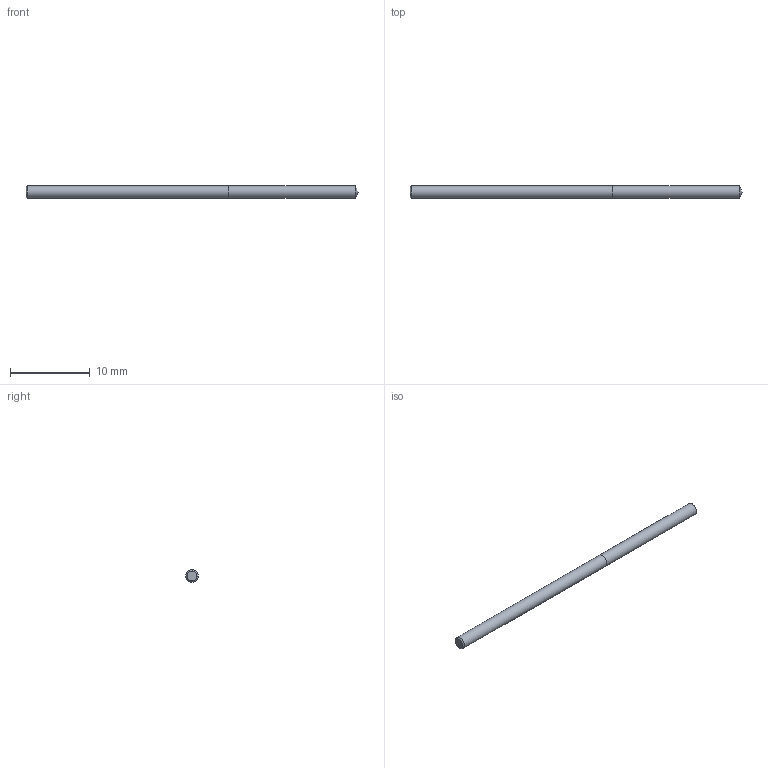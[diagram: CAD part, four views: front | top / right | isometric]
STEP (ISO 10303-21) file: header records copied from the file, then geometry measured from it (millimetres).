
FILE_DESCRIPTION (( 'STEP AP214' ), '1' );
FILE_NAME ('03-2403.STEP', '2022-06-03T07:18:19', ( 'USER' ), ( '' ), 'SwSTEP 2.0', 'SolidWorks 2018', '' );
FILE_SCHEMA (( 'AUTOMOTIVE_DESIGN' ));
Length unit declared in the file: inch
Products named in the file (1): 03-2403
Bounding box: 41.6 x 1.59 x 1.59 mm (x, y, z)
Volume: 81.9 mm3; surface area: 213.4 mm2
Topology: 2 solids, 2 shells, 7 faces, 11 edges, 7 vertices
Faces by surface type: plane 3, cylinder 2, cone 2
Full cylindrical faces by diameter (mm): 1.588 x2
Entity records: 214 total; most frequent: DIRECTION 26, CARTESIAN_POINT 18, AXIS2_PLACEMENT_3D 13, EDGE_LOOP 10, ORIENTED_EDGE 10, FACE_OUTER_BOUND 9, UNCERTAINTY_MEASURE_WITH_UNIT 7, LENGTH_MEASURE_WITH_UNIT 7
